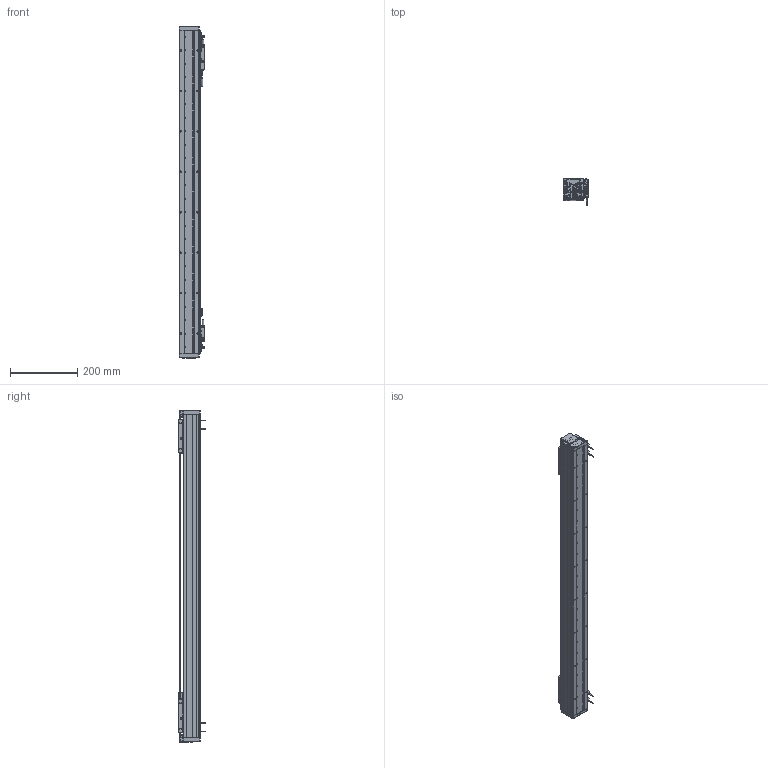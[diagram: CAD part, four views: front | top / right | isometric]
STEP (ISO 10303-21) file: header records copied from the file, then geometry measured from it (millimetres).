
FILE_DESCRIPTION (( 'STEP AP203' ), '1' );
FILE_NAME ('DA-A60-2-B1-T720-C010-0.2 眻盄萇儂.STEP', '2025-08-13T01:18:43', ( '' ), ( '' ), 'SwSTEP 2.0', 'SolidWorks 2019', '' );
FILE_SCHEMA (( 'CONFIG_CONTROL_DESIGN' ));
Length unit declared in the file: millimetre
Products named in the file (27): 葩璃 XD-U-02  棠掑喜^DA-A60-2-B1-T60-C010-0.2-N; ｸｴｼ DA-A60-GYP-DMT-00 ｹ箏邵ﾐﾓｦﾆｬ^DA-A60-2-B1-T60-C010-0.2-N(ﾄｬﾈﾏ); ｸｴｼ BAKM01-W030-C1-TP-0.2 ﾖｱﾏﾟｵ扈巐ｯﾗﾓ^DA-A60-2-B1-T60-C010-0.2-N; AU60-L 菁釱絳寢; 葩璃 鞠褒情蹟譫 M3^DA-A60-2-B1-T60-C010-0.2-N(GB_FASTENER_NUT_STNAB M3-C); 复件 DA60-B1-GT-00 滑块钢轨^DA60-YT-B1-HT-B-01 一体化滑动台板; AU60-V 幗紩賑怢-1; 葩璃 DMT-010 1米m 0.2M^DA-A60-2-B1-T60-C010-0.2-N; ｸｴｼ DA60-DMT-DTJ-ZJ-00 ﾖﾐｼ荼ﾁﾊﾍｷﾖｧｼﾜ^DA-A60-2-B1-T60-C010-0.2-N; IU-AU60-L-00 菁釱(960); 葩璃 DA60-DG-H-N-00 傷裔^DA-A60-2-B1-T60-C010-0.2-N; 葩璃 DA60-HK-DP-01 結え^AU60-V 幗紩賑怢; DA60-B1-HT-B-03 賑雄怢啣; 葩璃 DA60-XJ-00 砎蝶結輸^DA-A60-2-B1-T60-C010-0.2-N; DA60-T-002-00  裔啣; 复件 DA60-HC-XJ-01 中间缓冲橡胶^DA-A60-2-B1-T60-C010-0.2-N; 复件 纯铜油杯 6x6mm^AU60-V 滚珠滑台; 葩璃 AKM01-W030-TRL^DA-A60-2-B1-T60-C010-0.2-N; DA60-YT-B1-HT-B-01 珨极趙賑雄怢啣; 葩璃 DA60-DMT-DTJ-00 黍杅芛盓殤^DA-A60-2-B1-T60-C010-0.2-N; AU60-V 幗紩賑怢; 葩璃 PM-T45^DA-A60-2-B1-T60-C010-0.2-N; 葩璃 PM-Y65^DA-A60-2-B1-T60-C010-0.2-N; DA-A60-2-B1-T720-C010-0.2 眻盄萇儂; ｸｴｼ DA60-GYP-ZJ-01 ﾖﾐｼ荵箏邵ﾐﾓｦﾆｬ^DA-A60-2-B1-T60-C010-0.2-N(ﾄｬﾈﾏ); DA60-YT-B1-HT-B-01 珨极趙賑雄怢啣-1; 复件 DA60-GT-T-00 底座钢轨^AU60-L 底座导轨
Assembly tree (51 placements, depth 4):
  DA-A60-2-B1-T720-C010-0.2 眻盄萇儂
    AU60-L 菁釱絳寢
      IU-AU60-L-00 菁釱(960)
      复件 DA60-GT-T-00 底座钢轨^AU60-L 底座导轨  x2
    AU60-V 幗紩賑怢
      DA60-YT-B1-HT-B-01 珨极趙賑雄怢啣
        DA60-B1-HT-B-03 賑雄怢啣
        复件 DA60-B1-GT-00 滑块钢轨^DA60-YT-B1-HT-B-01 一体化滑动台板  x2
      葩璃 DA60-HK-DP-01 結え^AU60-V 幗紩賑怢  x2
      复件 纯铜油杯 6x6mm^AU60-V 滚珠滑台
    AU60-V 幗紩賑怢-1
      DA60-YT-B1-HT-B-01 珨极趙賑雄怢啣-1
        DA60-B1-HT-B-03 賑雄怢啣
        复件 DA60-B1-GT-00 滑块钢轨^DA60-YT-B1-HT-B-01 一体化滑动台板  x2
      葩璃 DA60-HK-DP-01 結え^AU60-V 幗紩賑怢  x2
      复件 纯铜油杯 6x6mm^AU60-V 滚珠滑台
    ｸｴｼ DA60-DMT-DTJ-ZJ-00 ﾖﾐｼ荼ﾁﾊﾍｷﾖｧｼﾜ^DA-A60-2-B1-T60-C010-0.2-N
    葩璃 PM-Y65^DA-A60-2-B1-T60-C010-0.2-N
    复件 DA60-HC-XJ-01 中间缓冲橡胶^DA-A60-2-B1-T60-C010-0.2-N  x2
    ｸｴｼ DA60-GYP-ZJ-01 ﾖﾐｼ荵箏邵ﾐﾓｦﾆｬ^DA-A60-2-B1-T60-C010-0.2-N(ﾄｬﾈﾏ)
    ｸｴｼ DA-A60-GYP-DMT-00 ｹ箏邵ﾐﾓｦﾆｬ^DA-A60-2-B1-T60-C010-0.2-N(ﾄｬﾈﾏ)  x2
    葩璃 DA60-DMT-DTJ-00 黍杅芛盓殤^DA-A60-2-B1-T60-C010-0.2-N
    葩璃 DMT-010 1米m 0.2M^DA-A60-2-B1-T60-C010-0.2-N  x2
    ｸｴｼ BAKM01-W030-C1-TP-0.2 ﾖｱﾏﾟｵ扈巐ｯﾗﾓ^DA-A60-2-B1-T60-C010-0.2-N  x2
    葩璃 DA60-XJ-00 砎蝶結輸^DA-A60-2-B1-T60-C010-0.2-N  x2
    葩璃 DA60-DG-H-N-00 傷裔^DA-A60-2-B1-T60-C010-0.2-N  x2
    DA60-T-002-00  裔啣
    葩璃 AKM01-W030-TRL^DA-A60-2-B1-T60-C010-0.2-N
    葩璃 PM-T45^DA-A60-2-B1-T60-C010-0.2-N  x4
    葩璃 XD-U-02  棠掑喜^DA-A60-2-B1-T60-C010-0.2-N
    葩璃 鞠褒情蹟譫 M3^DA-A60-2-B1-T60-C010-0.2-N(GB_FASTENER_NUT_STNAB M3-C)  x8
Bounding box: 76.95 x 80 x 984 mm (x, y, z)
Volume: 2155748.3 mm3; surface area: 771877.9 mm2
Topology: 57 solids, 61 shells, 3900 faces, 10069 edges, 6172 vertices
Faces by surface type: plane 1506, cylinder 1446, bspline 592, cone 342, torus 12, sphere 2
Entity records: 89213 total; most frequent: CARTESIAN_POINT 27222, ORIENTED_EDGE 12692, DIRECTION 11571, EDGE_CURVE 6346, AXIS2_PLACEMENT_3D 4027, VERTEX_POINT 4011, LINE 3517, VECTOR 3517
